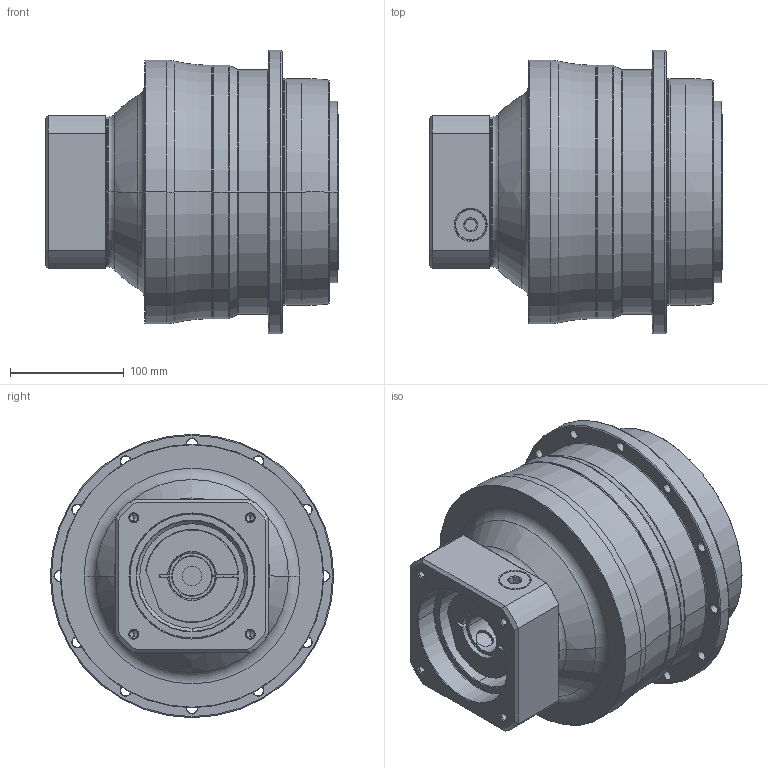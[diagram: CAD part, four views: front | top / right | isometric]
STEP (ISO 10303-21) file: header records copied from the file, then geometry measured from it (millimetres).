
FILE_DESCRIPTION((''),'2;1');
FILE_NAME('AH200_2ST_35-P0409800101_ASM','2016-08-12T',('d01943'),(''),'PRO/ENGINEER BY PARAMETRIC TECHNOLOGY CORPORATION, 2008410','PRO/ENGINEER BY PARAMETRIC TECHNOLOGY CORPORATION, 2008410','');
FILE_SCHEMA(('CONFIG_CONTROL_DESIGN'));
Length unit declared in the file: millimetre
Products named in the file (8): P0278600003; P0359600002; P1317600301; P0409800101; P0503800012; P0912503001; 21711422019; AH200_2ST_35-P0409800101_ASM
Assembly tree (7 placements, depth 2):
  AH200_2ST_35-P0409800101_ASM
    P0278600003
    P0359600002
    P1317600301
    P0409800101
    P0503800012
    P0912503001
    21711422019
Bounding box: 258.5 x 249.5 x 249.5 mm (x, y, z)
Volume: 7396254.1 mm3; surface area: 550371.6 mm2
Topology: 8 solids, 8 shells, 551 faces, 1287 edges, 757 vertices
Faces by surface type: cylinder 206, cone 170, plane 95, torus 64, bspline 16
Entity records: 20301 total; most frequent: CARTESIAN_POINT 7487, DIRECTION 2885, ORIENTED_EDGE 2482, EDGE_CURVE 1241, AXIS2_PLACEMENT_3D 1219, VERTEX_POINT 757, CIRCLE 669, EDGE_LOOP 640
